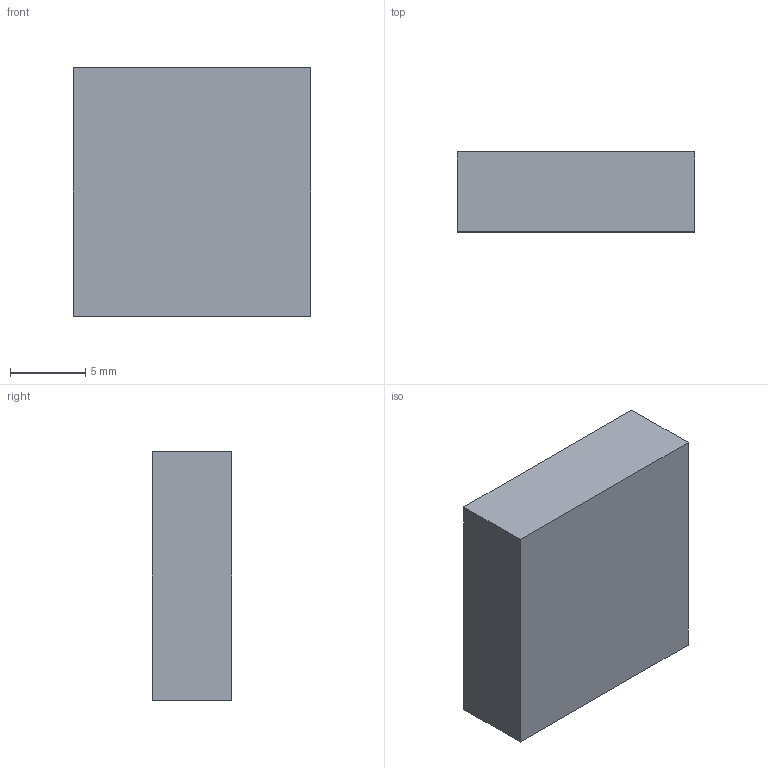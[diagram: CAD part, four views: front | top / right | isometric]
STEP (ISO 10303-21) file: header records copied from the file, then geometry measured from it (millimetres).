
FILE_DESCRIPTION(/* description */ ('STEP AP242 Edition 2','CAx-IF Rec.Pracs.---Representation and Presentation of Product Manufacturing Information (PMI)---4.0---2014-10-13','CAx-IF Rec.Pracs.---3D Tessellated Geometry---0.4---2014-09-14','2;1','CAx-IF Rec.Pracs.---User Defined Attributes---1.5---2016-08-15'),/* implementation_level */ '2;1');
FILE_NAME(/* name */ 'Assembly 1 - Body4 (4)',/* time_stamp */ '2026-09-25T20:07:14Z',/* author */ (''),/* organization */ (''),/* preprocessor_version */ 'ST-DEVELOPER v20',/* originating_system */ 'ONSHAPE BY PTC INC, 1.221',/* authorisation */ ' ');
FILE_SCHEMA (('AP242_MANAGED_MODEL_BASED_3D_ENGINEERING_MIM_LF { 1 0 10303 442 3 1 4 }'));
Length unit declared in the file: metre
Products named in the file (1): Body4
Bounding box: 15.8 x 5.3 x 16.5 mm (x, y, z)
Volume: 336.5 mm3; surface area: 1372.7 mm2
Topology: 1 solids, 1 shells, 14 faces, 36 edges, 24 vertices
Faces by surface type: plane 14
Entity records: 442 total; most frequent: CARTESIAN_POINT 75, ORIENTED_EDGE 72, DIRECTION 66, EDGE_CURVE 36, LINE 36, VECTOR 36, VERTEX_POINT 24, AXIS2_PLACEMENT_3D 15
